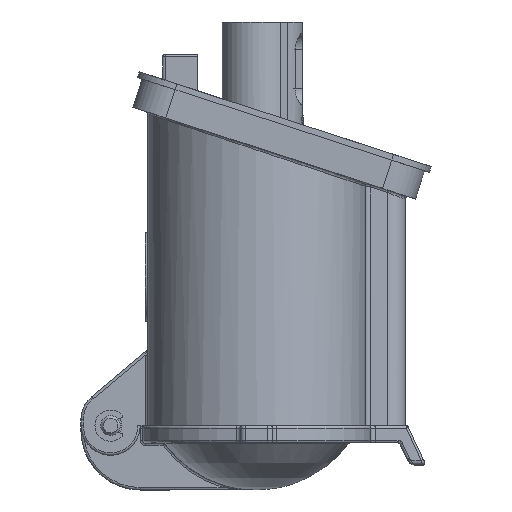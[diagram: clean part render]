
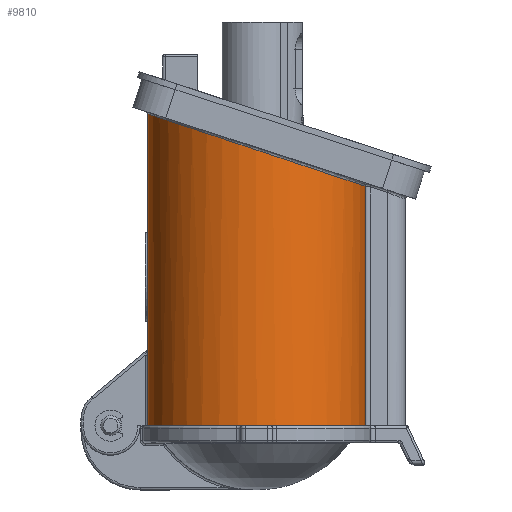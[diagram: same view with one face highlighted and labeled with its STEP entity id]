
A CAD part, left-side view. The second image highlights one B-rep face of the part: STEP entity #9810.
In plain terms, the highlighted cylindrical face has radius 22 mm (diameter 44 mm), a partial arc.
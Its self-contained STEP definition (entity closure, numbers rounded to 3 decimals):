
#1403=CARTESIAN_POINT('',(-23.0,22.0,0.0));
#1404=VERTEX_POINT('',#1403);
#1411=CARTESIAN_POINT('',(-23.0,22.0,62.956));
#1412=VERTEX_POINT('',#1411);
#1413=CARTESIAN_POINT('',(-23.0,22.0,0.0));
#1414=DIRECTION('',(0.0,0.0,1.0));
#1415=VECTOR('',#1414,62.956);
#1416=LINE('',#1413,#1415);
#1417=EDGE_CURVE('',#1404,#1412,#1416,.T.);
#9032=CARTESIAN_POINT('',(-23.0,-22.0,48.334));
#9033=VERTEX_POINT('',#9032);
#9043=CARTESIAN_POINT('',(-23.0,0.0,55.645));
#9044=DIRECTION('',(0.0,-0.315,0.949));
#9045=DIRECTION('',(0.0,0.949,0.315));
#9046=AXIS2_PLACEMENT_3D('',#9043,#9044,#9045);
#9047=ELLIPSE('',#9046,23.183,22.0);
#9048=EDGE_CURVE('',#1412,#9033,#9047,.T.);
#9775=CARTESIAN_POINT('',(-23.0,-22.0,0.0));
#9776=VERTEX_POINT('',#9775);
#9777=CARTESIAN_POINT('',(-23.0,-22.0,0.0));
#9778=DIRECTION('',(0.0,0.0,1.0));
#9779=VECTOR('',#9778,48.334);
#9780=LINE('',#9777,#9779);
#9781=EDGE_CURVE('',#9776,#9033,#9780,.T.);
#9793=CARTESIAN_POINT('',(-23.0,0.0,0.0));
#9794=DIRECTION('',(0.0,0.0,1.0));
#9795=DIRECTION('',(0.0,-1.0,0.0));
#9796=AXIS2_PLACEMENT_3D('',#9793,#9794,#9795);
#9797=CYLINDRICAL_SURFACE('',#9796,22.0);
#9798=ORIENTED_EDGE('',*,*,#9048,.F.);
#9799=ORIENTED_EDGE('',*,*,#1417,.F.);
#9800=CARTESIAN_POINT('',(-23.0,0.0,0.0));
#9801=DIRECTION('',(0.0,0.0,-1.0));
#9802=DIRECTION('',(0.0,-1.0,0.0));
#9803=AXIS2_PLACEMENT_3D('',#9800,#9801,#9802);
#9804=CIRCLE('',#9803,22.0);
#9805=EDGE_CURVE('',#9776,#1404,#9804,.T.);
#9806=ORIENTED_EDGE('',*,*,#9805,.F.);
#9807=ORIENTED_EDGE('',*,*,#9781,.T.);
#9808=EDGE_LOOP('',(#9798,#9799,#9806,#9807));
#9809=FACE_OUTER_BOUND('',#9808,.T.);
#9810=ADVANCED_FACE('',(#9809),#9797,.T.);
